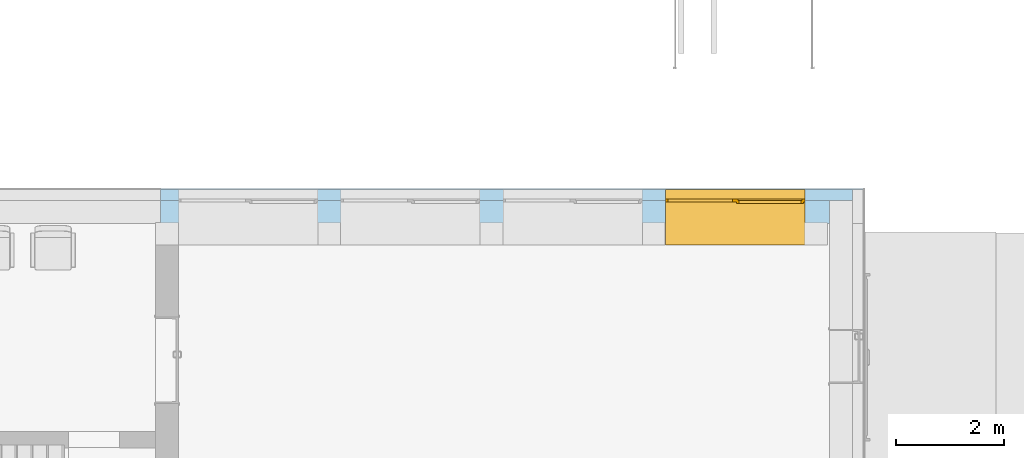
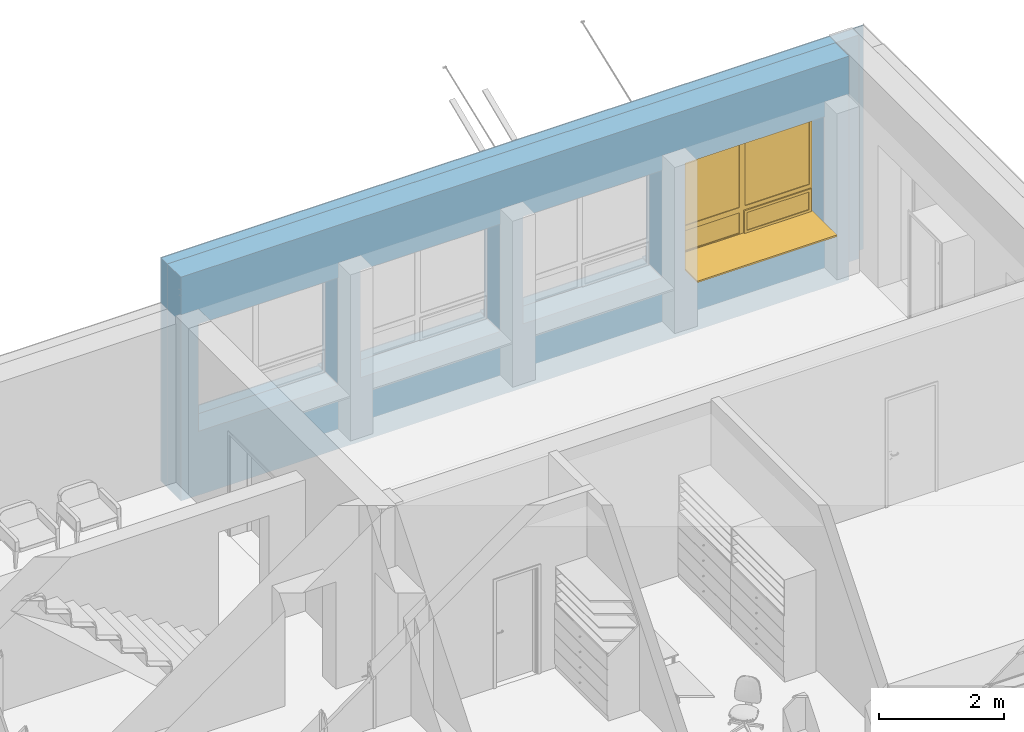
# One storey, part 101 of 194: 1 window, 4 openings, 1 element without a shape of its own, plus 3 elements that do not belong to this part.
"""IFC2X3 building model written with IfcOpenShell, lengths in millimetres."""

from ifc_helpers import new_model, entity, si_unit, converted_unit, derived_unit, money_unit, direction, frame, origin_with_axes, origin_2d_with_axis, place, context, subcontext, project, spatial, polyline, rectangle, outline, extrude, boolean, open_shell, faceted_brep, surface_model, material, type_object, element, fill, aggregate, save


model = new_model("IFC2X3")

# Units and contexts
model_context = context("Model", 3, precision=1e-05, world=origin_with_axes(), true_north=direction((0.0, 1.0)))
body_context = subcontext(model_context, "Body", "Model", "MODEL_VIEW")
ifc_project = project(units=[si_unit("LENGTHUNIT", "METRE", prefix="MILLI"), si_unit("AREAUNIT", "SQUARE_METRE"), si_unit("VOLUMEUNIT", "CUBIC_METRE"), converted_unit("PLANEANGLEUNIT", "DEGREE", entity("IfcPlaneAngleMeasure", 0.0174532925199), si_unit("PLANEANGLEUNIT", "RADIAN"), dimensions=[0, 0, 0, 0, 0, 0, 0]), si_unit("SOLIDANGLEUNIT", "STERADIAN"), money_unit("EUR"), converted_unit("TIMEUNIT", "Year", entity("IfcTimeMeasure", 31556926.0), si_unit("TIMEUNIT", "SECOND"), dimensions=[0, 0, 1, 0, 0, 0, 0]), si_unit("MASSUNIT", "GRAM", prefix="KILO"), si_unit("THERMODYNAMICTEMPERATUREUNIT", "DEGREE_CELSIUS"), si_unit("LUMINOUSINTENSITYUNIT", "LUMEN"), si_unit("ENERGYUNIT", "JOULE", prefix="MEGA"), derived_unit("THERMALCONDUCTANCEUNIT", [(si_unit("POWERUNIT", "WATT"), 1), (si_unit("LENGTHUNIT", "METRE"), -1), (si_unit("THERMODYNAMICTEMPERATUREUNIT", "KELVIN"), -1)]), derived_unit("SPECIFICHEATCAPACITYUNIT", [(si_unit("ENERGYUNIT", "JOULE"), 1), (si_unit("MASSUNIT", "GRAM", prefix="KILO"), -1), (si_unit("THERMODYNAMICTEMPERATUREUNIT", "KELVIN"), -1)]), derived_unit("MASSDENSITYUNIT", [(si_unit("MASSUNIT", "GRAM", prefix="KILO"), 1), (si_unit("VOLUMEUNIT", "CUBIC_METRE"), -1)])], contexts=[model_context])

# Site, building, storey
site_placement = place(None, origin_with_axes())
site = spatial("IfcSite", under=ifc_project, at=site_placement, Name="Site", CompositionType="ELEMENT")
building_placement = place(site_placement, origin_with_axes())
building = spatial("IfcBuilding", under=site, at=building_placement, Name="Building", CompositionType="ELEMENT")
storey_placement = place(building_placement, frame((0.0, 0.0, 3000.0), z_axis=(0.0, 0.0, 1.0), x_axis=(1.0, 0.0, 0.0)))
storey = spatial("IfcBuildingStorey", under=building, at=storey_placement, Name="2 KORRUS", CompositionType="ELEMENT", Elevation=3000.0)

# Window
window_style = type_object("IfcWindowStyle", Name="A2   2\xa0580×2\xa0100", ConstructionType="NOTDEFINED", OperationType="USERDEFINED", ParameterTakesPrecedence=False, Sizeable=False)
wall_placement = place(storey_placement, frame((87829.1670684, 47302.325893, -400.0), z_axis=(0.0, 0.0, 1.0), x_axis=(1.0, 0.0, 0.0)))
opening_3_placement = place(wall_placement, frame((10622.6003401, 0.0, 1250.0), z_axis=(0.0, 0.0, 1.0), x_axis=(1.0, 0.0, 0.0)))
window_placement = place(opening_3_placement, frame((1290.0, 0.0, 0.0), z_axis=(0.0, 0.0, 1.0), x_axis=(-1.0, 0.0, 0.0)))
window = element("IfcWindow", 1, at=window_placement, inside=storey, type_object=window_style, Name="välisaken * Double Window 22", OverallHeight=2100.0, OverallWidth=2580.0, context=body_context, shape_type="SurfaceModel", body=[
    faceted_brep([(2580.0, -219.999999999, 5.0), (2580.0, -19.9999999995, 5.0), (2580.0, -19.9999999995, 30.0), (2580.0, -219.999999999, 19.5184441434), (0.0, -19.9999999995, 5.0), (0.0, -219.999999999, 5.0), (0.0, -19.9999999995, 30.0), (0.0, -219.999999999, 19.5184441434)], [[[0, 1, 2, 3]], [[4, 1, 0, 5]], [[1, 4, 6, 2]], [[3, 2, 6, 7]], [[5, 0, 3, 7]], [[4, 5, 7, 6]]]),
    faceted_brep([(2580.0, -19.9999999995, 0.0), (2580.0, -19.9999999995, 5.0), (2580.0, -219.999999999, 5.0), (2580.0, -219.999999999, 0.0), (0.0, -19.9999999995, 0.0), (0.0, -19.9999999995, 5.0), (0.0, -219.999999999, 5.0), (0.0, -219.999999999, 0.0)], [[[0, 1, 2, 3]], [[4, 5, 1, 0]], [[1, 5, 6, 2]], [[3, 2, 6, 7]], [[0, 3, 7, 4]], [[7, 6, 5, 4]]]),
    faceted_brep([(0.0, 30.0000000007, 0.0), (0.0, 30.0000000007, 30.0), (0.0, 430.0, 30.0), (0.0, 430.0, 0.0), (2580.0, 30.0000000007, 0.0), (2580.0, 30.0000000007, 30.0), (2580.0, 430.0, 30.0), (2580.0, 830.000000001, 30.0), (0.0, 830.000000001, 30.0), (0.0, 830.000000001, 0.0), (2580.0, 830.000000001, 0.0), (2580.0, 430.0, 0.0)], [[[0, 1, 2, 3]], [[4, 5, 1, 0]], [[1, 5, 6, 7, 8, 2]], [[3, 2, 8, 9]], [[0, 3, 9, 10, 11, 4]], [[11, 6, 5, 4]], [[10, 7, 6, 11]], [[9, 8, 7, 10]]]),
    faceted_brep([(25.0, 30.0000000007, 475.0), (25.0, 30.0000000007, 50.0), (0.0, 30.0000000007, 50.0), (0.0, 30.0000000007, 2050.0), (50.0, 30.0000000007, 2050.0), (50.0, 30.0000000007, 550.0), (50.0, 30.0000000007, 475.0), (25.0, 5.00000000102, 475.0), (25.0, 5.00000000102, 50.0), (50.0, 5.00000000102, 50.0), (50.0, -19.9999999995, 50.0), (0.0, -19.9999999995, 50.0), (0.0, -19.9999999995, 2050.0), (50.0, -19.9999999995, 2050.0), (50.0, -19.9999999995, 550.0), (50.0, 5.00000000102, 475.0), (50.0, -19.9999999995, 450.0), (50.0, 5.00000000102, 450.0)], [[[0, 1, 2, 3, 4, 5, 6]], [[1, 0, 7, 8]], [[8, 9, 10, 11, 2, 1]], [[2, 11, 12, 3]], [[3, 12, 13, 4]], [[4, 13, 14, 5]], [[15, 6, 5, 14, 16, 17]], [[0, 6, 15, 7]], [[9, 8, 7, 15, 17]], [[9, 17, 16, 10]], [[11, 10, 16, 14, 13, 12]]]),
    faceted_brep([(1265.0, 30.0000000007, 50.0), (1265.0, 30.0000000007, 475.0), (1240.0, 30.0000000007, 475.0), (1240.0, 30.0000000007, 550.0), (1240.0, 30.0000000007, 2050.0), (1340.0, 30.0000000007, 2050.0), (1340.0, 30.0000000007, 550.0), (1340.0, 30.0000000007, 450.0), (1340.0, 30.0000000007, 50.0), (1265.0, 5.00000000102, 50.0), (1265.0, 5.00000000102, 475.0), (1240.0, 5.00000000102, 475.0), (1240.0, 5.00000000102, 450.0), (1240.0, -19.9999999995, 450.0), (1240.0, -19.9999999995, 550.0), (1240.0, -19.9999999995, 2050.0), (1340.0, -19.9999999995, 2050.0), (1340.0, -19.9999999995, 550.0), (1340.0, -19.9999999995, 450.0), (1340.0, -19.9999999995, 50.0), (1240.0, -19.9999999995, 50.0), (1240.0, 5.00000000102, 50.0)], [[[0, 1, 2, 3, 4, 5, 6, 7, 8]], [[1, 0, 9, 10]], [[11, 2, 1, 10]], [[11, 12, 13, 14, 3, 2]], [[3, 14, 15, 4]], [[4, 15, 16, 5]], [[5, 16, 17, 6]], [[6, 17, 18, 7]], [[7, 18, 19, 8]], [[9, 0, 8, 19, 20, 21]], [[12, 11, 10, 9, 21]], [[12, 21, 20, 13]], [[18, 17, 16, 15, 14, 13, 20, 19]]]),
    faceted_brep([(1240.0, 30.0000000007, 475.0), (50.0, 30.0000000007, 475.0), (50.0, 30.0000000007, 550.0), (1240.0, 30.0000000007, 550.0), (50.0, 5.00000000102, 475.0), (1240.0, 5.00000000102, 475.0), (50.0, 5.00000000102, 450.0), (50.0, -19.9999999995, 450.0), (50.0, -19.9999999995, 550.0), (1240.0, -19.9999999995, 550.0), (1240.0, -19.9999999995, 450.0), (1240.0, 5.00000000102, 450.0)], [[[0, 1, 2, 3]], [[4, 1, 0, 5]], [[4, 6, 7, 8, 2, 1]], [[2, 8, 9, 3]], [[5, 0, 3, 9, 10, 11]], [[6, 4, 5, 11]], [[6, 11, 10, 7]], [[10, 9, 8, 7]]]),
    faceted_brep([(50.0, 5.00000000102, 50.0), (25.0, 5.00000000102, 50.0), (25.0, 30.0000000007, 50.0), (0.0, 30.0000000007, 50.0), (0.0, -19.9999999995, 50.0), (50.0, -19.9999999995, 50.0), (1240.0, 5.00000000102, 50.0), (1265.0, 5.00000000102, 50.0), (1265.0, 5.00000000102, 25.0), (25.0, 5.00000000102, 25.0), (25.0, 30.0000000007, 25.0), (1265.0, 30.0000000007, 25.0), (1265.0, 30.0000000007, 50.0), (1340.0, 30.0000000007, 50.0), (2530.0, 30.0000000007, 50.0), (2580.0, 30.0000000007, 50.0), (2580.0, 30.0000000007, 0.0), (0.0, 30.0000000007, 0.0), (0.0, -19.9999999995, 0.0), (2580.0, -19.9999999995, 50.0), (2530.0, -19.9999999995, 50.0), (1340.0, -19.9999999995, 50.0), (1240.0, -19.9999999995, 50.0), (2580.0, -19.9999999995, 0.0)], [[[0, 1, 2, 3, 4, 5]], [[1, 0, 6, 7, 8, 9]], [[10, 2, 1, 9]], [[11, 12, 13, 14, 15, 16, 17, 3, 2, 10]], [[17, 18, 4, 3]], [[19, 20, 21, 22, 5, 4, 18, 23]], [[6, 0, 5, 22]], [[7, 6, 22, 21, 13, 12]], [[7, 12, 11, 8]], [[11, 10, 9, 8]], [[13, 21, 20, 14]], [[14, 20, 19, 15]], [[15, 19, 23, 16]], [[16, 23, 18, 17]]]),
    faceted_brep([(2530.0, -19.9999999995, 450.0), (2530.0, -19.9999999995, 550.0), (2530.0, 30.0000000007, 550.0), (2530.0, 30.0000000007, 450.0), (2530.0, -19.9999999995, 50.0), (2580.0, -19.9999999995, 50.0), (2580.0, -19.9999999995, 2050.0), (2530.0, -19.9999999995, 2050.0), (2530.0, 30.0000000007, 2050.0), (2580.0, 30.0000000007, 2050.0), (2580.0, 30.0000000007, 50.0), (2530.0, 30.0000000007, 50.0)], [[[0, 1, 2, 3]], [[0, 4, 5, 6, 7, 1]], [[1, 7, 8, 2]], [[3, 2, 8, 9, 10, 11]], [[4, 0, 3, 11]], [[5, 4, 11, 10]], [[6, 5, 10, 9]], [[7, 6, 9, 8]]]),
    faceted_brep([(1340.0, -19.9999999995, 450.0), (1340.0, -19.9999999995, 550.0), (1340.0, 30.0000000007, 550.0), (1340.0, 30.0000000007, 450.0), (2530.0, -19.9999999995, 450.0), (2530.0, -19.9999999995, 550.0), (2530.0, 30.0000000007, 550.0), (2530.0, 30.0000000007, 450.0)], [[[0, 1, 2, 3]], [[0, 4, 5, 1]], [[1, 5, 6, 2]], [[3, 2, 6, 7]], [[4, 0, 3, 7]], [[5, 4, 7, 6]]]),
    faceted_brep([(1340.0, -19.9999999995, 2050.0), (1240.0, -19.9999999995, 2050.0), (1240.0, 30.0000000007, 2050.0), (1340.0, 30.0000000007, 2050.0), (2530.0, -19.9999999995, 2050.0), (2580.0, -19.9999999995, 2050.0), (2580.0, -19.9999999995, 2100.0), (0.0, -19.9999999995, 2100.0), (0.0, -19.9999999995, 2050.0), (50.0, -19.9999999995, 2050.0), (50.0, 30.0000000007, 2050.0), (0.0, 30.0000000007, 2050.0), (0.0, 30.0000000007, 2100.0), (2580.0, 30.0000000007, 2100.0), (2580.0, 30.0000000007, 2050.0), (2530.0, 30.0000000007, 2050.0)], [[[0, 1, 2, 3]], [[0, 4, 5, 6, 7, 8, 9, 1]], [[1, 9, 10, 2]], [[3, 2, 10, 11, 12, 13, 14, 15]], [[4, 0, 3, 15]], [[5, 4, 15, 14]], [[6, 5, 14, 13]], [[7, 6, 13, 12]], [[8, 7, 12, 11]], [[9, 8, 11, 10]]]),
    surface_model("IfcShellBasedSurfaceModel", [(2530.0, -4.9999999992, 550.0), (2530.0, -4.9999999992, 2050.0), (1340.0, -4.9999999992, 2050.0), (1340.0, -4.9999999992, 550.0)], [open_shell([[[0, 1, 2, 3]]])]),
    surface_model("IfcShellBasedSurfaceModel", [(2530.0, 15.0000000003, 550.0), (1340.0, 15.0000000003, 550.0), (1340.0, 15.0000000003, 2050.0), (2530.0, 15.0000000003, 2050.0)], [open_shell([[[0, 1, 2, 3]]])]),
    surface_model("IfcShellBasedSurfaceModel", [(1240.0, -4.9999999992, 550.0), (1240.0, -4.9999999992, 2050.0), (50.0, -4.9999999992, 2050.0), (50.0, -4.9999999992, 550.0)], [open_shell([[[0, 1, 2, 3]]])]),
    surface_model("IfcShellBasedSurfaceModel", [(1240.0, 15.0000000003, 550.0), (50.0, 15.0000000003, 550.0), (50.0, 15.0000000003, 2050.0), (1240.0, 15.0000000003, 2050.0)], [open_shell([[[0, 1, 2, 3]]])]),
    surface_model("IfcShellBasedSurfaceModel", [(2530.0, -4.9999999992, 50.0), (2530.0, -4.9999999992, 450.0), (1340.0, -4.9999999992, 450.0), (1340.0, -4.9999999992, 50.0)], [open_shell([[[0, 1, 2, 3]]])]),
    surface_model("IfcShellBasedSurfaceModel", [(2530.0, 15.0000000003, 50.0), (1340.0, 15.0000000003, 50.0), (1340.0, 15.0000000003, 450.0), (2530.0, 15.0000000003, 450.0)], [open_shell([[[0, 1, 2, 3]]])]),
    faceted_brep([(1215.0, 5.00000000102, 425.0), (1265.0, 5.00000000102, 425.0), (1265.0, 55.0000000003, 425.0), (1215.0, 55.0000000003, 425.0), (1215.0, 5.00000000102, 75.0), (1265.0, 5.00000000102, 75.0), (1265.0, 55.0000000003, 75.0), (1215.0, 55.0000000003, 75.0)], [[[0, 1, 2, 3]], [[0, 4, 5, 1]], [[1, 5, 6, 2]], [[3, 2, 6, 7]], [[4, 0, 3, 7]], [[5, 4, 7, 6]]]),
    faceted_brep([(74.9999999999, 5.00000000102, 75.0), (25.0, 5.00000000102, 75.0), (25.0, 55.0000000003, 75.0), (74.9999999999, 55.0000000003, 75.0), (74.9999999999, 5.00000000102, 425.0), (25.0, 5.00000000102, 425.0), (25.0, 55.0000000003, 425.0), (74.9999999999, 55.0000000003, 425.0)], [[[0, 1, 2, 3]], [[0, 4, 5, 1]], [[1, 5, 6, 2]], [[3, 2, 6, 7]], [[4, 0, 3, 7]], [[5, 4, 7, 6]]]),
    faceted_brep([(25.0, 5.00000000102, 25.0), (25.0, 5.00000000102, 75.0), (25.0, 55.0000000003, 75.0), (25.0, 55.0000000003, 25.0), (1265.0, 5.00000000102, 25.0), (1265.0, 5.00000000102, 75.0), (1215.0, 5.00000000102, 75.0), (74.9999999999, 5.00000000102, 75.0), (74.9999999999, 55.0000000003, 75.0), (1215.0, 55.0000000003, 75.0), (1265.0, 55.0000000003, 75.0), (1265.0, 55.0000000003, 25.0)], [[[0, 1, 2, 3]], [[0, 4, 5, 6, 7, 1]], [[1, 7, 8, 2]], [[3, 2, 8, 9, 10, 11]], [[4, 0, 3, 11]], [[5, 4, 11, 10]], [[6, 5, 10, 9]], [[7, 6, 9, 8]]]),
    faceted_brep([(1265.0, 5.00000000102, 475.0), (1265.0, 5.00000000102, 425.0), (1265.0, 55.0000000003, 425.0), (1265.0, 55.0000000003, 475.0), (25.0, 5.00000000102, 475.0), (25.0, 5.00000000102, 425.0), (74.9999999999, 5.00000000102, 425.0), (1215.0, 5.00000000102, 425.0), (1215.0, 55.0000000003, 425.0), (74.9999999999, 55.0000000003, 425.0), (25.0, 55.0000000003, 425.0), (25.0, 55.0000000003, 475.0)], [[[0, 1, 2, 3]], [[0, 4, 5, 6, 7, 1]], [[1, 7, 8, 2]], [[3, 2, 8, 9, 10, 11]], [[4, 0, 3, 11]], [[5, 4, 11, 10]], [[6, 5, 10, 9]], [[7, 6, 9, 8]]]),
    surface_model("IfcShellBasedSurfaceModel", [(1215.0, 20.0000000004, 75.0), (1215.0, 20.0000000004, 425.0), (74.9999999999, 20.0000000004, 425.0), (74.9999999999, 20.0000000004, 75.0)], [open_shell([[[0, 1, 2, 3]]])]),
    surface_model("IfcShellBasedSurfaceModel", [(1215.0, 40.0000000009, 75.0), (74.9999999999, 40.0000000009, 75.0), (74.9999999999, 40.0000000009, 425.0), (1215.0, 40.0000000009, 425.0)], [open_shell([[[0, 1, 2, 3]]])]),
])

# Wall, openings
wall_type = type_object("IfcWallType", Name="VS4", PredefinedType="NOTDEFINED")
wall = element("IfcWall", 2, at=wall_placement, inside=storey, type_object=wall_type, Name="VS4")
opening_1_placement = place(wall_placement, frame((4618.18571631, 0.0, 1250.0), z_axis=(0.0, 0.0, 1.0), x_axis=(1.0, 0.0, 0.0)))
element("IfcOpeningElement", 3, at=opening_1_placement, cuts=wall, Name="välisaken * Double Window 22", context=body_context, shape_type="SweptSolid", body=[
    extrude(rectangle(XDim=2580.0, YDim=2100.0, at=origin_2d_with_axis()), frame((0.0, 19.9999999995, 1050.0), z_axis=(0.0, -1.0, 0.0), x_axis=(1.0, 0.0, 0.0)), (0.0, 0.0, 1.0), 1100.0),
    extrude(rectangle(XDim=2580.0, YDim=2100.0, at=origin_2d_with_axis()), frame((0.0, 19.9999999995, 1050.0), z_axis=(0.0, 1.0, 0.0), x_axis=(1.0, 0.0, 0.0)), (0.0, 0.0, 1.0), 850.0),
])
opening_2_placement = place(wall_placement, frame((7618.18571631, 0.0, 1250.0), z_axis=(0.0, 0.0, 1.0), x_axis=(1.0, 0.0, 0.0)))
element("IfcOpeningElement", 4, at=opening_2_placement, cuts=wall, Name="välisaken * Double Window 22", context=body_context, shape_type="SweptSolid", body=[
    extrude(rectangle(XDim=2580.0, YDim=2100.0, at=origin_2d_with_axis()), frame((0.0, 19.9999999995, 1050.0), z_axis=(0.0, -1.0, 0.0), x_axis=(1.0, 0.0, 0.0)), (0.0, 0.0, 1.0), 1100.0),
    extrude(rectangle(XDim=2580.0, YDim=2100.0, at=origin_2d_with_axis()), frame((0.0, 19.9999999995, 1050.0), z_axis=(0.0, 1.0, 0.0), x_axis=(1.0, 0.0, 0.0)), (0.0, 0.0, 1.0), 850.0),
])
opening_3 = element("IfcOpeningElement", 5, at=opening_3_placement, cuts=wall, Name="välisaken * Double Window 22", context=body_context, shape_type="SweptSolid", body=[
    extrude(rectangle(XDim=2580.0, YDim=2100.0, at=origin_2d_with_axis()), frame((0.0, 19.9999999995, 1050.0), z_axis=(0.0, -1.0, 0.0), x_axis=(1.0, 0.0, 0.0)), (0.0, 0.0, 1.0), 1100.0),
    extrude(rectangle(XDim=2580.0, YDim=2100.0, at=origin_2d_with_axis()), frame((0.0, 19.9999999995, 1050.0), z_axis=(0.0, 1.0, 0.0), x_axis=(1.0, 0.0, 0.0)), (0.0, 0.0, 1.0), 850.0),
])

fill(opening_3, window)

# Opening
opening_4_placement = place(wall_placement, frame((1618.73994525, 0.0, 1250.0), z_axis=(0.0, 0.0, 1.0), x_axis=(1.0, 0.0, 0.0)))
element("IfcOpeningElement", 6, at=opening_4_placement, cuts=wall, Name="välisaken * Double Window 22", context=body_context, shape_type="SweptSolid", body=[
    extrude(rectangle(XDim=2580.0, YDim=2100.0, at=origin_2d_with_axis()), frame((0.0, 19.9999999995, 1050.0), z_axis=(0.0, -1.0, 0.0), x_axis=(1.0, 0.0, 0.0)), (0.0, 0.0, 1.0), 1100.0),
    extrude(rectangle(XDim=2580.0, YDim=2100.0, at=origin_2d_with_axis()), frame((0.0, 19.9999999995, 1050.0), z_axis=(0.0, 1.0, 0.0), x_axis=(1.0, 0.0, 0.0)), (0.0, 0.0, 1.0), 850.0),
])

# Building element part
ifc_material_1 = material(Name="Tellis - Konstuktsioon")
building_element_part_1_placement = place(wall_placement, origin_with_axes())
building_element_part_1 = element("IfcBuildingElementPart", 7, at=building_element_part_1_placement, material=ifc_material_1, Name="Tellis - Konstuktsioon", context=body_context, shape_type="CSG", body=[
    boolean("DIFFERENCE", boolean("DIFFERENCE", boolean("DIFFERENCE", boolean("DIFFERENCE", boolean("DIFFERENCE", boolean("DIFFERENCE", boolean("DIFFERENCE", extrude(outline(polyline([(0.0, -430.0), (13016.0388703, -430.0), (13016.0388703, 0.0), (0.0, 0.0), (0.0, -430.0)])), origin_with_axes(), (0.0, 0.0, 1.0), 4380.0), faceted_brep([(0.0, -430.0, 4010.11334593), (15.916542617, -430.0, 4010.11334593), (15.916542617, -430.0, 4012.73673389), (15.6607950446, -430.0, 4014.34624258), (14.9324875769, -430.0, 4015.71071817), (13.8424984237, -430.0, 4016.6224316), (13.0257764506, -430.0, 4016.90140389), (0.0, -430.0, 4019.18424271), (0.0, -354.519551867, 3985.58826165), (15.916542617, -354.519551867, 3985.58826165), (15.916542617, -354.519551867, 3988.21164961), (15.6607950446, -354.519551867, 3989.82115831), (14.9324875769, -354.519551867, 3991.18563389), (13.8424984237, -354.519551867, 3992.09734733), (13.0257764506, -354.519551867, 3992.37631961), (0.0, -354.519551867, 3994.65915843)], [[[0, 1, 2, 3, 4, 5, 6, 7]], [[1, 0, 8, 9]], [[2, 1, 9, 10]], [[3, 2, 10, 11]], [[4, 3, 11, 12]], [[5, 4, 12, 13]], [[6, 5, 13, 14]], [[7, 6, 14, 15]], [[8, 0, 7, 15]], [[8, 15, 14, 13, 12, 11, 10, 9]]])), faceted_brep([(15.6607950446, -430.0, 4132.05614005), (15.916542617, -430.0, 4133.66564874), (15.916542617, -430.0, 4136.28903671), (0.0, -430.0, 4136.28903671), (0.0, -430.0, 4127.21813993), (13.0257764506, -430.0, 4129.50097875), (13.8424984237, -430.0, 4129.77995103), (14.9324875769, -430.0, 4130.69166447), (15.6607950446, -354.519551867, 4107.53105577), (15.916542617, -354.519551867, 4109.14056446), (15.916542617, -354.519551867, 4111.76395243), (0.0, -354.519551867, 4111.76395243), (0.0, -354.519551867, 4102.69305565), (13.0257764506, -354.519551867, 4104.97589447), (13.8424984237, -354.519551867, 4105.25486675), (14.9324875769, -354.519551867, 4106.16658019)], [[[0, 1, 2, 3, 4, 5, 6, 7]], [[1, 0, 8, 9]], [[2, 1, 9, 10]], [[3, 2, 10, 11]], [[12, 4, 3, 11]], [[5, 4, 12, 13]], [[6, 5, 13, 14]], [[7, 6, 14, 15]], [[0, 7, 15, 8]], [[12, 11, 10, 9, 8, 15, 14, 13]]])), faceted_brep([(12365.9726529, 0.0, 4380.0), (12366.0388626, -430.0, 4380.0), (13016.0388703, -430.0, 4380.0), (13016.0388703, 0.0, 4380.0), (12366.0388626, -430.0, 0.0), (12365.9726529, 0.0, 0.0), (13016.0388703, -430.0, 0.0), (13016.0388703, 0.0, 0.0)], [[[0, 1, 2, 3]], [[4, 1, 0, 5]], [[1, 4, 6, 2]], [[2, 6, 7, 3]], [[5, 0, 3, 7]], [[4, 5, 7, 6]]])), faceted_brep([(124.191637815, 200.0, 1280.0), (124.191637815, 200.0, 3380.0), (12406.3440914, 200.0, 3380.0), (12406.3440914, 200.0, 1280.0), (124.191637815, 90.86534167, 1280.0), (124.191637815, 90.86534167, 3380.0), (12406.3440914, 90.8653416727, 3380.0), (12406.3440914, 90.8653416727, 1280.0)], [[[0, 1, 2, 3]], [[1, 0, 4, 5]], [[2, 1, 5, 6]], [[3, 2, 6, 7]], [[0, 3, 7, 4]], [[4, 7, 6, 5]]])), faceted_brep([(12795.9418628, 200.0, 4380.0), (12795.972658, 0.0, 4380.0), (13016.0388703, 0.0, 4380.0), (13016.0388703, 200.0, 4380.0), (12795.972658, 0.0, 0.0), (12795.9418628, 200.0, 0.0), (13016.0388703, 0.0, 0.0), (13016.0388703, 200.0, 0.0)], [[[0, 1, 2, 3]], [[4, 1, 0, 5]], [[1, 4, 6, 2]], [[2, 6, 7, 3]], [[5, 0, 3, 7]], [[4, 5, 7, 6]]])), faceted_brep([(124.191637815, 200.0, 1280.0), (12406.3440914, 200.0, 1280.0), (12406.3440914, 200.0, 3380.0), (124.191637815, 200.0, 3380.0), (124.191637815, 220.0, 1280.0), (12406.3440914, 220.0, 1280.0), (12406.3440914, 220.0, 3380.0), (124.191637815, 220.0, 3380.0)], [[[0, 1, 2, 3]], [[4, 5, 1, 0]], [[5, 6, 2, 1]], [[6, 7, 3, 2]], [[7, 4, 0, 3]], [[4, 7, 6, 5]]])), faceted_brep([(12995.9387857, 220.0, 0.0), (12995.9387857, 220.0, 4380.0), (13016.0388703, 220.0, 4380.0), (13016.0388703, 220.0, 0.0), (12995.9418652, 200.0, 4380.0), (12995.9418652, 200.0, 0.0), (13016.0388703, 200.0, 4380.0), (13016.0388703, 200.0, 0.0)], [[[0, 1, 2, 3]], [[4, 1, 0, 5]], [[1, 4, 6, 2]], [[6, 7, 3, 2]], [[5, 0, 3, 7]], [[4, 5, 7, 6]]])),
])

ifc_material_2 = material(Name="Soojustus - Plastik Kõva")
building_element_part_2_placement = place(wall_placement, origin_with_axes())
building_element_part_2 = element("IfcBuildingElementPart", 8, at=building_element_part_2_placement, material=ifc_material_2, Name="Soojustus - Plastik Kõva", context=body_context, shape_type="CSG", body=[
    boolean("DIFFERENCE", boolean("DIFFERENCE", boolean("DIFFERENCE", boolean("DIFFERENCE", boolean("DIFFERENCE", boolean("DIFFERENCE", boolean("DIFFERENCE", extrude(outline(polyline([(0.0, 0.0), (13016.0388703, 0.0), (13016.0388703, 200.0), (0.0, 200.0), (0.0, 0.0)])), origin_with_axes(), (0.0, 0.0, 1.0), 4380.0), faceted_brep([(0.0, -430.0, 4010.11334593), (15.916542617, -430.0, 4010.11334593), (15.916542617, -430.0, 4012.73673389), (15.6607950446, -430.0, 4014.34624258), (14.9324875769, -430.0, 4015.71071817), (13.8424984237, -430.0, 4016.6224316), (13.0257764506, -430.0, 4016.90140389), (0.0, -430.0, 4019.18424271), (0.0, -354.519551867, 3985.58826165), (15.916542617, -354.519551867, 3985.58826165), (15.916542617, -354.519551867, 3988.21164961), (15.6607950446, -354.519551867, 3989.82115831), (14.9324875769, -354.519551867, 3991.18563389), (13.8424984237, -354.519551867, 3992.09734733), (13.0257764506, -354.519551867, 3992.37631961), (0.0, -354.519551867, 3994.65915843)], [[[0, 1, 2, 3, 4, 5, 6, 7]], [[1, 0, 8, 9]], [[2, 1, 9, 10]], [[3, 2, 10, 11]], [[4, 3, 11, 12]], [[5, 4, 12, 13]], [[6, 5, 13, 14]], [[7, 6, 14, 15]], [[8, 0, 7, 15]], [[8, 15, 14, 13, 12, 11, 10, 9]]])), faceted_brep([(15.6607950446, -430.0, 4132.05614005), (15.916542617, -430.0, 4133.66564874), (15.916542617, -430.0, 4136.28903671), (0.0, -430.0, 4136.28903671), (0.0, -430.0, 4127.21813993), (13.0257764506, -430.0, 4129.50097875), (13.8424984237, -430.0, 4129.77995103), (14.9324875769, -430.0, 4130.69166447), (15.6607950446, -354.519551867, 4107.53105577), (15.916542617, -354.519551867, 4109.14056446), (15.916542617, -354.519551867, 4111.76395243), (0.0, -354.519551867, 4111.76395243), (0.0, -354.519551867, 4102.69305565), (13.0257764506, -354.519551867, 4104.97589447), (13.8424984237, -354.519551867, 4105.25486675), (14.9324875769, -354.519551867, 4106.16658019)], [[[0, 1, 2, 3, 4, 5, 6, 7]], [[1, 0, 8, 9]], [[2, 1, 9, 10]], [[3, 2, 10, 11]], [[12, 4, 3, 11]], [[5, 4, 12, 13]], [[6, 5, 13, 14]], [[7, 6, 14, 15]], [[0, 7, 15, 8]], [[12, 11, 10, 9, 8, 15, 14, 13]]])), faceted_brep([(12365.9726529, 0.0, 4380.0), (12366.0388626, -430.0, 4380.0), (13016.0388703, -430.0, 4380.0), (13016.0388703, 0.0, 4380.0), (12366.0388626, -430.0, 0.0), (12365.9726529, 0.0, 0.0), (13016.0388703, -430.0, 0.0), (13016.0388703, 0.0, 0.0)], [[[0, 1, 2, 3]], [[4, 1, 0, 5]], [[1, 4, 6, 2]], [[2, 6, 7, 3]], [[5, 0, 3, 7]], [[4, 5, 7, 6]]])), faceted_brep([(124.191637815, 200.0, 1280.0), (124.191637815, 200.0, 3380.0), (12406.3440914, 200.0, 3380.0), (12406.3440914, 200.0, 1280.0), (124.191637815, 90.86534167, 1280.0), (124.191637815, 90.86534167, 3380.0), (12406.3440914, 90.8653416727, 3380.0), (12406.3440914, 90.8653416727, 1280.0)], [[[0, 1, 2, 3]], [[1, 0, 4, 5]], [[2, 1, 5, 6]], [[3, 2, 6, 7]], [[0, 3, 7, 4]], [[4, 7, 6, 5]]])), faceted_brep([(12795.9418628, 200.0, 4380.0), (12795.972658, 0.0, 4380.0), (13016.0388703, 0.0, 4380.0), (13016.0388703, 200.0, 4380.0), (12795.972658, 0.0, 0.0), (12795.9418628, 200.0, 0.0), (13016.0388703, 0.0, 0.0), (13016.0388703, 200.0, 0.0)], [[[0, 1, 2, 3]], [[4, 1, 0, 5]], [[1, 4, 6, 2]], [[2, 6, 7, 3]], [[5, 0, 3, 7]], [[4, 5, 7, 6]]])), faceted_brep([(124.191637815, 200.0, 1280.0), (12406.3440914, 200.0, 1280.0), (12406.3440914, 200.0, 3380.0), (124.191637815, 200.0, 3380.0), (124.191637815, 220.0, 1280.0), (12406.3440914, 220.0, 1280.0), (12406.3440914, 220.0, 3380.0), (124.191637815, 220.0, 3380.0)], [[[0, 1, 2, 3]], [[4, 5, 1, 0]], [[5, 6, 2, 1]], [[6, 7, 3, 2]], [[7, 4, 0, 3]], [[4, 7, 6, 5]]])), faceted_brep([(12995.9387857, 220.0, 0.0), (12995.9387857, 220.0, 4380.0), (13016.0388703, 220.0, 4380.0), (13016.0388703, 220.0, 0.0), (12995.9418652, 200.0, 4380.0), (12995.9418652, 200.0, 0.0), (13016.0388703, 200.0, 4380.0), (13016.0388703, 200.0, 0.0)], [[[0, 1, 2, 3]], [[4, 1, 0, 5]], [[1, 4, 6, 2]], [[6, 7, 3, 2]], [[5, 0, 3, 7]], [[4, 5, 7, 6]]])),
])

ifc_material_3 = material(Name="Tellis - Viimistlus")
building_element_part_3_placement = place(wall_placement, origin_with_axes())
building_element_part_3 = element("IfcBuildingElementPart", 9, at=building_element_part_3_placement, material=ifc_material_3, Name="Tellis - Viimistlus", context=body_context, shape_type="CSG", body=[
    boolean("DIFFERENCE", boolean("DIFFERENCE", boolean("DIFFERENCE", boolean("DIFFERENCE", boolean("DIFFERENCE", boolean("DIFFERENCE", boolean("DIFFERENCE", extrude(outline(polyline([(0.0, 200.0), (13016.0388703, 200.0), (13016.0388703, 220.0), (0.0, 220.0), (0.0, 200.0)])), origin_with_axes(), (0.0, 0.0, 1.0), 4380.0), faceted_brep([(0.0, -430.0, 4010.11334593), (15.916542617, -430.0, 4010.11334593), (15.916542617, -430.0, 4012.73673389), (15.6607950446, -430.0, 4014.34624258), (14.9324875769, -430.0, 4015.71071817), (13.8424984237, -430.0, 4016.6224316), (13.0257764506, -430.0, 4016.90140389), (0.0, -430.0, 4019.18424271), (0.0, -354.519551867, 3985.58826165), (15.916542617, -354.519551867, 3985.58826165), (15.916542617, -354.519551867, 3988.21164961), (15.6607950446, -354.519551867, 3989.82115831), (14.9324875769, -354.519551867, 3991.18563389), (13.8424984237, -354.519551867, 3992.09734733), (13.0257764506, -354.519551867, 3992.37631961), (0.0, -354.519551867, 3994.65915843)], [[[0, 1, 2, 3, 4, 5, 6, 7]], [[1, 0, 8, 9]], [[2, 1, 9, 10]], [[3, 2, 10, 11]], [[4, 3, 11, 12]], [[5, 4, 12, 13]], [[6, 5, 13, 14]], [[7, 6, 14, 15]], [[8, 0, 7, 15]], [[8, 15, 14, 13, 12, 11, 10, 9]]])), faceted_brep([(15.6607950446, -430.0, 4132.05614005), (15.916542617, -430.0, 4133.66564874), (15.916542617, -430.0, 4136.28903671), (0.0, -430.0, 4136.28903671), (0.0, -430.0, 4127.21813993), (13.0257764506, -430.0, 4129.50097875), (13.8424984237, -430.0, 4129.77995103), (14.9324875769, -430.0, 4130.69166447), (15.6607950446, -354.519551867, 4107.53105577), (15.916542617, -354.519551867, 4109.14056446), (15.916542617, -354.519551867, 4111.76395243), (0.0, -354.519551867, 4111.76395243), (0.0, -354.519551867, 4102.69305565), (13.0257764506, -354.519551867, 4104.97589447), (13.8424984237, -354.519551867, 4105.25486675), (14.9324875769, -354.519551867, 4106.16658019)], [[[0, 1, 2, 3, 4, 5, 6, 7]], [[1, 0, 8, 9]], [[2, 1, 9, 10]], [[3, 2, 10, 11]], [[12, 4, 3, 11]], [[5, 4, 12, 13]], [[6, 5, 13, 14]], [[7, 6, 14, 15]], [[0, 7, 15, 8]], [[12, 11, 10, 9, 8, 15, 14, 13]]])), faceted_brep([(12365.9726529, 0.0, 4380.0), (12366.0388626, -430.0, 4380.0), (13016.0388703, -430.0, 4380.0), (13016.0388703, 0.0, 4380.0), (12366.0388626, -430.0, 0.0), (12365.9726529, 0.0, 0.0), (13016.0388703, -430.0, 0.0), (13016.0388703, 0.0, 0.0)], [[[0, 1, 2, 3]], [[4, 1, 0, 5]], [[1, 4, 6, 2]], [[2, 6, 7, 3]], [[5, 0, 3, 7]], [[4, 5, 7, 6]]])), faceted_brep([(124.191637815, 200.0, 1280.0), (124.191637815, 200.0, 3380.0), (12406.3440914, 200.0, 3380.0), (12406.3440914, 200.0, 1280.0), (124.191637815, 90.86534167, 1280.0), (124.191637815, 90.86534167, 3380.0), (12406.3440914, 90.8653416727, 3380.0), (12406.3440914, 90.8653416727, 1280.0)], [[[0, 1, 2, 3]], [[1, 0, 4, 5]], [[2, 1, 5, 6]], [[3, 2, 6, 7]], [[0, 3, 7, 4]], [[4, 7, 6, 5]]])), faceted_brep([(12795.9418628, 200.0, 4380.0), (12795.972658, 0.0, 4380.0), (13016.0388703, 0.0, 4380.0), (13016.0388703, 200.0, 4380.0), (12795.972658, 0.0, 0.0), (12795.9418628, 200.0, 0.0), (13016.0388703, 0.0, 0.0), (13016.0388703, 200.0, 0.0)], [[[0, 1, 2, 3]], [[4, 1, 0, 5]], [[1, 4, 6, 2]], [[2, 6, 7, 3]], [[5, 0, 3, 7]], [[4, 5, 7, 6]]])), faceted_brep([(124.191637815, 200.0, 1280.0), (12406.3440914, 200.0, 1280.0), (12406.3440914, 200.0, 3380.0), (124.191637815, 200.0, 3380.0), (124.191637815, 220.0, 1280.0), (12406.3440914, 220.0, 1280.0), (12406.3440914, 220.0, 3380.0), (124.191637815, 220.0, 3380.0)], [[[0, 1, 2, 3]], [[4, 5, 1, 0]], [[5, 6, 2, 1]], [[6, 7, 3, 2]], [[7, 4, 0, 3]], [[4, 7, 6, 5]]])), faceted_brep([(12995.9387857, 220.0, 0.0), (12995.9387857, 220.0, 4380.0), (13016.0388703, 220.0, 4380.0), (13016.0388703, 220.0, 0.0), (12995.9418652, 200.0, 4380.0), (12995.9418652, 200.0, 0.0), (13016.0388703, 200.0, 4380.0), (13016.0388703, 200.0, 0.0)], [[[0, 1, 2, 3]], [[4, 1, 0, 5]], [[1, 4, 6, 2]], [[6, 7, 3, 2]], [[5, 0, 3, 7]], [[4, 5, 7, 6]]])),
])

aggregate(wall, [building_element_part_1, building_element_part_2, building_element_part_3])

save(model, "model.ifc")
